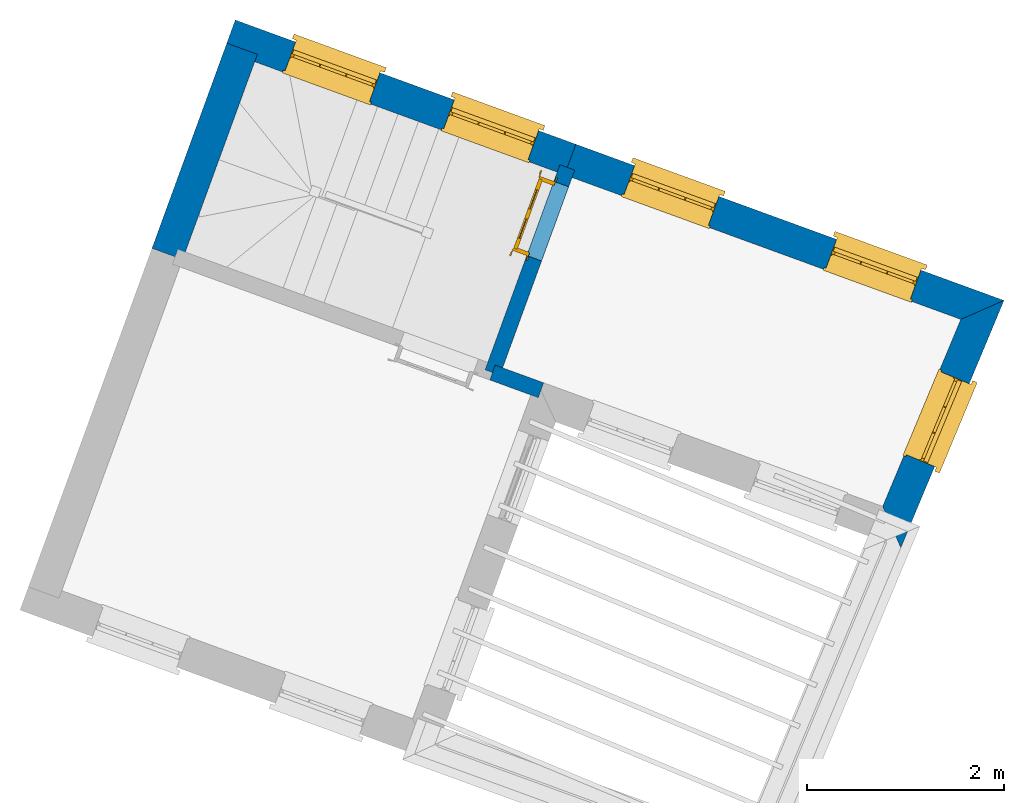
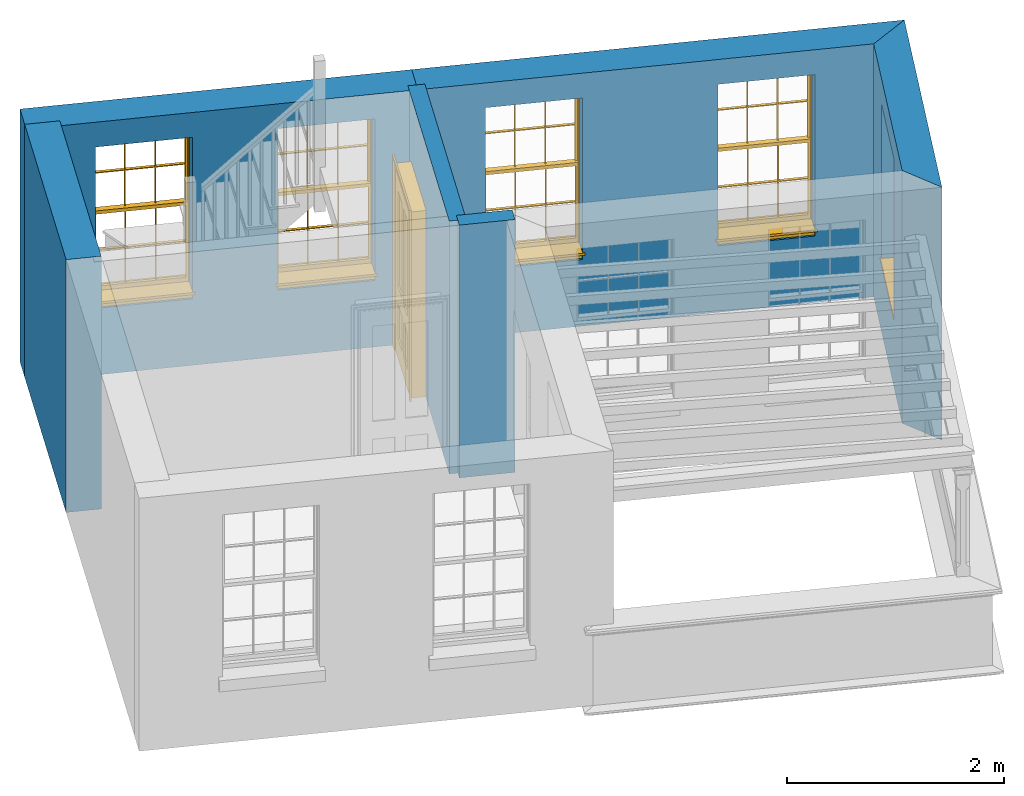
# One storey, part 4 of 7: 6 walls, 5 windows, 1 door, 6 openings.
"""IFC4 building model written with IfcOpenShell, lengths in metres."""

from ifc_helpers import new_model, si_unit, frame, origin, origin_with_axes, place, context, subcontext, project, spatial, polyline, outline, extrude, faceted_brep, source, transform, mapped, material, layer, layer_set, layer_usage, type_object, type_shapes, element, fill, save


model = new_model("IFC4")

# Units and contexts
model_context = context("Model", 3, world=origin_with_axes())
body_context = subcontext(model_context, "Body", "Model", "MODEL_VIEW")
ifc_project = project(units=[si_unit("PLANEANGLEUNIT", "RADIAN"), si_unit("MASSUNIT", "GRAM", prefix="KILO"), si_unit("FORCEUNIT", "NEWTON", prefix="KILO"), si_unit("LENGTHUNIT", "METRE"), si_unit("AREAUNIT", "SQUARE_METRE"), si_unit("VOLUMEUNIT", "CUBIC_METRE")], contexts=[model_context, model_context])

# Sites, building, storey
site_1_placement = place(None, origin_with_axes())
site_1 = spatial("IfcSite", under=ifc_project, at=site_1_placement, Name="Tamar")
site_2_placement = place(site_1_placement, origin_with_axes())
site_2 = spatial("IfcSite", under=site_1, at=site_2_placement, Name="Site plot-13", CompositionType="ELEMENT")
building_placement = place(None, origin_with_axes())
building = spatial("IfcBuilding", under=site_2, at=building_placement, Name="Building plot-13", CompositionType="ELEMENT")
storey_placement = place(None, frame((0.0, 0.0, 29.0), z_axis=(0.0, 0.0, 1.0), x_axis=(1.0, 0.0, 0.0)))
storey = spatial("IfcBuildingStorey", under=building, at=storey_placement, Name="plot-13 1", CompositionType="ELEMENT", Elevation=29.0)

# Wall, opening, window
ifc_material_1 = material(Name="Masonry")
ifc_layer_1 = layer(ifc_material_1, 0.33, ventilated=False)
ifc_layer_set_1 = layer_set([ifc_layer_1], Name="exterior_0.08_0.25")
ifc_layer_usage_1 = layer_usage(ifc_layer_set_1, "AXIS2", "POSITIVE", -0.25)
wall_type_1 = type_object("IfcWallType", Name="exterior_0.08_0.25", PredefinedType="SOLIDWALL", material=ifc_layer_set_1)
wall_1_placement = place(storey_placement, frame((249.746626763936, 299.462658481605, 0.0), z_axis=(0.0, 0.0, 1.0), x_axis=(0.385150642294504, 0.922853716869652, 0.0)))
wall_1 = element("IfcWall", 1, at=wall_1_placement, inside=storey, type_object=wall_type_1, material=ifc_layer_usage_1, Name="exterior", context=body_context, shape_type="SweptSolid", body=[
    extrude(outline(polyline([(0.0764369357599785, 0.0799999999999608), (-0.238865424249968, -0.250000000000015), (2.47628927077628, -0.250000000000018), (2.13090650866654, 0.0799999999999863), (0.0764369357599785, 0.0799999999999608)])), origin_with_axes(), (0.0, 0.0, 1.0), 2.85),
])
opening_1_placement = place(wall_1_placement, frame((0.652317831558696, 0.0, 0.75)))
opening_1 = element("IfcOpeningElement", 2, at=opening_1_placement, cuts=wall_1, Name="My Opening", ObjectType="Opening", context=body_context, shape_type="SweptSolid", body=[
    extrude(outline(polyline([(0.0, -0.270000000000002), (0.910000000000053, -0.269999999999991), (0.91000000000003, 1.09999999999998), (-2.28705943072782e-14, 1.09999999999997), (0.0, -0.270000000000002)])), origin_with_axes(), (0.0, 0.0, 1.0), 1.82),
])
window_type = type_object("IfcWindowType", Name="sash_big", PartitioningType="DOUBLE_PANEL_HORIZONTAL", PredefinedType="NOTDEFINED")
shared_shape_1 = source(origin(), body_context, "Body", "Brep", [
    faceted_brep([(0.033125, 0.145, 0.975209), (0.01, 0.145, 0.975209), (0.033125, 0.145, 1.376042), (0.876875, 0.145, 0.975209), (0.876875, 0.145, 1.376042), (0.9, 0.145, 0.975209), (0.876875, 0.145, 1.386042), (0.876875, 0.145, 1.786875), (0.9, 0.145, 1.81), (0.033125, 0.145, 1.786875), (0.033125, 0.145, 1.386042), (0.01, 0.145, 1.81), (0.876875, 0.115, 1.376042), (0.876875, 0.115, 0.975209), (0.9, 0.115, 0.937083), (0.033125, 0.115, 1.786875), (0.01, 0.115, 1.81), (0.033125, 0.115, 1.386042), (0.01, 0.115, 0.937083), (0.033125, 0.115, 0.975209), (0.033125, 0.115, 1.376042), (0.876875, 0.115, 1.786875), (0.876875, 0.115, 1.386042), (0.9, 0.115, 1.81), (0.033125, 0.145, 0.937083), (0.01, 0.145, 0.937083), (0.033125, 0.145, 0.53625), (0.876875, 0.145, 0.937083), (0.876875, 0.145, 0.53625), (0.9, 0.145, 0.937083), (0.876875, 0.145, 0.52625), (0.876875, 0.145, 0.125417), (0.9, 0.145, 0.077167), (0.033125, 0.145, 0.125417), (0.033125, 0.145, 0.52625), (0.01, 0.145, 0.077167), (-0.0425, 0.0, 0.01), (-0.0425, -0.05, 0.001667), (0.0, 0.0, 0.01), (0.9525, 0.0, 0.01), (0.91, 0.0, 0.01), (0.9525, -0.05, 0.001667), (-0.02, 0.33, 0.077167), (0.0, 0.33, 0.077167), (-0.02, 0.36, 0.077167), (0.0, 0.19, 0.077167), (0.01, 0.19, 0.077167), (0.91, 0.19, 0.077167), (0.91, 0.33, 0.077167), (0.9, 0.19, 0.077167), (0.93, 0.33, 0.077167), (0.93, 0.36, 0.077167), (0.01, 0.175, 0.975209), (0.9, 0.175, 0.975209), (0.876875, 0.175, 0.125417), (0.876875, 0.175, 0.52625), (0.9, 0.175, 0.077167), (0.876875, 0.175, 0.53625), (0.876875, 0.175, 0.937083), (0.033125, 0.175, 0.125417), (0.01, 0.175, 0.077167), (0.033125, 0.175, 0.52625), (0.033125, 0.175, 0.937083), (0.033125, 0.175, 0.53625), (-0.02, 0.33, 0.052167), (-0.02, 0.36, 0.052167), (0.93, 0.36, 0.052167), (0.93, 0.33, 0.052167), (0.91, 0.33, 0.052167), (0.0, 0.33, 0.052167), (0.91, 0.1, 0.026667), (0.0, 0.1, 0.026667), (-0.0425, -0.05, -0.123333), (0.9525, -0.05, -0.123333), (-0.0425, 0.0, -0.123333), (0.9525, 0.0, -0.123333), (0.01, 0.19, 1.81), (0.9, 0.19, 1.81), (0.0, 0.19, 1.82), (0.91, 0.19, 1.82), (0.01, 0.1, 0.077167), (0.9, 0.1, 0.077167), (0.592292, 0.145, 0.125417), (0.592292, 0.175, 0.125417), (0.317708, 0.175, 0.125417), (0.317708, 0.145, 0.125417), (0.592292, 0.145, 0.53625), (0.317708, 0.145, 0.53625), (0.317708, 0.145, 0.52625), (0.592292, 0.145, 0.52625), (0.592292, 0.175, 0.53625), (0.317708, 0.175, 0.53625), (0.592292, 0.115, 1.386042), (0.592292, 0.145, 1.386042), (0.317708, 0.145, 1.386042), (0.317708, 0.115, 1.386042), (0.317708, 0.115, 1.376042), (0.592292, 0.115, 1.376042), (0.317708, 0.145, 1.376042), (0.592292, 0.145, 1.376042), (0.602292, 0.115, 1.376042), (0.592292, 0.115, 0.975209), (0.602292, 0.115, 0.975209), (0.602292, 0.145, 0.975209), (0.592292, 0.145, 0.975209), (0.602292, 0.145, 1.376042), (0.602292, 0.175, 0.53625), (0.602292, 0.145, 0.53625), (0.317708, 0.175, 0.52625), (0.307708, 0.175, 0.125417), (0.307708, 0.175, 0.52625), (0.602292, 0.175, 0.52625), (0.602292, 0.175, 0.125417), (0.592292, 0.175, 0.52625), (0.307708, 0.175, 0.53625), (0.317708, 0.175, 0.937083), (0.307708, 0.175, 0.937083), (0.602292, 0.175, 0.937083), (0.592292, 0.175, 0.937083), (0.307708, 0.145, 0.52625), (0.307708, 0.145, 0.125417), (0.307708, 0.145, 0.53625), (0.307708, 0.145, 0.937083), (0.592292, 0.145, 0.937083), (0.317708, 0.145, 0.937083), (0.602292, 0.145, 0.937083), (0.602292, 0.145, 0.52625), (0.602292, 0.145, 0.125417), (0.307708, 0.115, 1.386042), (0.307708, 0.115, 1.376042), (0.307708, 0.115, 0.975209), (0.317708, 0.115, 0.975209), (0.317708, 0.115, 1.786875), (0.307708, 0.115, 1.786875), (0.602292, 0.115, 1.786875), (0.592292, 0.115, 1.786875), (0.602292, 0.115, 1.386042), (0.602292, 0.145, 1.386042), (0.307708, 0.145, 1.386042), (0.307708, 0.145, 1.786875), (0.317708, 0.145, 1.786875), (0.592292, 0.145, 1.786875), (0.602292, 0.145, 1.786875), (0.307708, 0.145, 1.376042), (0.317708, 0.145, 0.975209), (0.307708, 0.145, 0.975209), (0.91, 0.1, 1.82), (0.9, 0.1, 1.81), (0.01, 0.1, 1.81), (0.0, 0.1, 1.82), (0.91, 0.0, 0.0), (0.0, 0.0, 0.0), (0.91, 0.33, 0.0), (0.0, 0.33, 0.0)], [[[0, 1, 2]], [[3, 4, 5]], [[6, 7, 8]], [[9, 10, 11]], [[12, 13, 14]], [[15, 16, 17]], [[18, 19, 20]], [[21, 22, 23]], [[24, 25, 26]], [[27, 28, 29]], [[30, 31, 32]], [[33, 34, 35]], [[14, 27, 29]], [[25, 24, 18]], [[36, 37, 38]], [[39, 40, 41]], [[42, 43, 44]], [[45, 46, 43]], [[47, 48, 49]], [[50, 51, 48]], [[1, 0, 52]], [[5, 53, 3]], [[54, 55, 56]], [[57, 58, 53]], [[59, 60, 61]], [[62, 63, 52]], [[48, 43, 46, 49]], [[51, 44, 43, 48]], [[64, 42, 44, 65]], [[65, 44, 51, 66]], [[66, 51, 50, 67]], [[65, 66, 68, 69]], [[60, 56, 49, 46]], [[70, 71, 38, 40]], [[37, 41, 40, 38]], [[37, 72, 73, 41]], [[74, 75, 73, 72]], [[8, 11, 76, 77]], [[76, 78, 79, 77]], [[32, 35, 80, 81]], [[81, 80, 71, 70]], [[82, 83, 84, 85]], [[86, 87, 88, 89]], [[86, 90, 91, 87]], [[92, 93, 94, 95]], [[92, 95, 96, 97]], [[96, 98, 99, 97]], [[100, 97, 101, 102]], [[103, 104, 99, 105]], [[97, 99, 104, 101]], [[102, 103, 105, 100]], [[28, 57, 106, 107]], [[108, 84, 109, 110]], [[111, 112, 83, 113]], [[114, 110, 61, 63]], [[90, 113, 108, 91]], [[115, 91, 114, 116]], [[117, 106, 90, 118]], [[111, 106, 57, 55]], [[119, 110, 109, 120]], [[34, 61, 110, 119]], [[89, 113, 83, 82]], [[88, 108, 113, 89]], [[85, 84, 108, 88]], [[121, 114, 63, 26]], [[122, 116, 114, 121]], [[123, 118, 90, 86]], [[87, 91, 115, 124]], [[107, 106, 117, 125]], [[126, 111, 55, 30]], [[127, 112, 111, 126]], [[126, 30, 28, 107]], [[88, 119, 120, 85]], [[126, 89, 82, 127]], [[125, 123, 86, 107]], [[121, 26, 34, 119]], [[124, 122, 121, 87]], [[128, 17, 20, 129]], [[96, 129, 130, 131]], [[132, 133, 128, 95]], [[134, 135, 92, 136]], [[100, 12, 22, 136]], [[137, 6, 4, 105]], [[94, 138, 139, 140]], [[137, 93, 141, 142]], [[99, 98, 94, 93]], [[143, 2, 10, 138]], [[144, 145, 143, 98]], [[129, 143, 145, 130]], [[20, 2, 143, 129]], [[131, 144, 98, 96]], [[128, 138, 10, 17]], [[133, 139, 138, 128]], [[135, 141, 93, 92]], [[95, 94, 140, 132]], [[22, 6, 137, 136]], [[136, 137, 142, 134]], [[100, 105, 4, 12]], [[107, 86, 89, 126]], [[106, 111, 113, 90]], [[91, 108, 110, 114]], [[87, 121, 119, 88]], [[97, 100, 136, 92]], [[129, 96, 95, 128]], [[98, 143, 138, 94]], [[105, 99, 93, 137]], [[131, 101, 104, 144]], [[124, 115, 118, 123]], [[132, 140, 141, 135]], [[120, 109, 59, 33]], [[15, 9, 139, 133]], [[134, 142, 7, 21]], [[31, 54, 112, 127]], [[36, 74, 72, 37]], [[39, 41, 73, 75]], [[18, 14, 101, 131]], [[23, 16, 132, 135]], [[83, 56, 60, 84]], [[52, 53, 118, 115]], [[53, 52, 144, 104]], [[11, 8, 141, 140]], [[14, 18, 124, 123]], [[2, 1, 11, 10]], [[8, 5, 4, 6]], [[57, 53, 56, 55]], [[60, 52, 63, 61]], [[26, 25, 35, 34]], [[32, 29, 28, 30]], [[14, 23, 22, 12]], [[18, 20, 17, 16]], [[19, 0, 2, 20]], [[17, 10, 9, 15]], [[12, 4, 3, 13]], [[21, 7, 6, 22]], [[27, 58, 57, 28]], [[30, 55, 54, 31]], [[33, 59, 61, 34]], [[26, 63, 62, 24]], [[5, 8, 77, 53]], [[76, 11, 1, 52]], [[46, 45, 78, 76]], [[49, 77, 79, 47]], [[70, 146, 147, 81]], [[71, 80, 148, 149]], [[19, 130, 145, 0]], [[102, 13, 3, 103]], [[116, 122, 24, 62]], [[29, 32, 81, 14]], [[80, 35, 25, 18]], [[60, 46, 76, 52]], [[77, 49, 56, 53]], [[23, 14, 81, 147]], [[16, 148, 80, 18]], [[35, 85, 120]], [[120, 33, 35]], [[127, 82, 32]], [[32, 31, 127]], [[32, 82, 85, 35]], [[102, 101, 14]], [[14, 13, 102]], [[18, 131, 130]], [[130, 19, 18]], [[134, 21, 23]], [[23, 135, 134]], [[16, 15, 133]], [[133, 132, 16]], [[11, 140, 139]], [[139, 9, 11]], [[142, 141, 8]], [[8, 7, 142]], [[23, 147, 148, 16]], [[146, 149, 148, 147]], [[52, 115, 116]], [[116, 62, 52]], [[118, 53, 117]], [[58, 117, 53]], [[27, 125, 117, 58]], [[56, 83, 112]], [[112, 54, 56]], [[109, 84, 60]], [[60, 59, 109]], [[125, 27, 14]], [[14, 123, 125]], [[122, 124, 18]], [[18, 24, 122]], [[145, 144, 52]], [[52, 0, 145]], [[103, 3, 53]], [[53, 104, 103]], [[79, 78, 149, 146]], [[78, 45, 71, 149]], [[146, 70, 47, 79]], [[150, 75, 74, 151]], [[68, 66, 67]], [[48, 68, 67, 50]], [[69, 64, 65]], [[42, 64, 69, 43]], [[69, 68, 152, 153]], [[70, 68, 48, 47]], [[150, 152, 68, 70]], [[43, 69, 71, 45]], [[69, 153, 151, 71]], [[152, 150, 151, 153]], [[38, 151, 74, 36]], [[71, 151, 38]], [[39, 75, 150, 40]], [[40, 150, 70]]]),
])
type_shapes(window_type, [shared_shape_1])
window_1_placement = place(storey_placement, frame((250.247037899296, 299.96066174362, 0.75), z_axis=(0.0, 0.0, 1.0), x_axis=(0.350487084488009, 0.839796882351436, 0.0)))
window_1 = element("IfcWindow", 3, at=window_1_placement, inside=storey, type_object=window_type, Name="toilet outside window", OverallHeight=1.82, OverallWidth=0.91, context=body_context, shape_type="MappedRepresentation", body=[
    mapped(shared_shape_1, transform((0.0, 0.0, 0.0), scale=1.0)),
])
fill(opening_1, window_1)

# Wall, openings, windows
wall_2_placement = place(storey_placement, frame((250.599595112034, 301.506443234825, 0.0), z_axis=(0.0, 0.0, 1.0), x_axis=(-0.939432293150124, 0.342734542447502, 0.0)))
wall_2 = element("IfcWall", 4, at=wall_2_placement, inside=storey, type_object=wall_type_1, material=ifc_layer_usage_1, Name="exterior", context=body_context, shape_type="SweptSolid", body=[
    extrude(outline(polyline([(0.0837291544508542, 0.0800000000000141), (-0.261653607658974, -0.249999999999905), (4.35646628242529, -0.249999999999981), (4.35646628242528, 0.0799999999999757), (0.0837291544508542, 0.0800000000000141)])), origin_with_axes(), (0.0, 0.0, 1.0), 2.85),
])
opening_2_placement = place(wall_2_placement, frame((0.634116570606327, 0.0, 0.75)))
opening_2 = element("IfcOpeningElement", 5, at=opening_2_placement, cuts=wall_2, Name="My Opening", ObjectType="Opening", context=body_context, shape_type="SweptSolid", body=[
    extrude(outline(polyline([(0.0, -0.269999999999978), (0.909999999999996, -0.27), (0.909999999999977, 1.09999999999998), (-1.82076576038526e-14, 1.1), (0.0, -0.269999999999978)])), origin_with_axes(), (0.0, 0.0, 1.0), 1.82),
])
opening_3_placement = place(wall_2_placement, frame((2.812349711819, 0.0, 0.75)))
opening_3 = element("IfcOpeningElement", 6, at=opening_3_placement, cuts=wall_2, Name="My Opening", ObjectType="Opening", context=body_context, shape_type="SweptSolid", body=[
    extrude(outline(polyline([(0.0, -0.27), (0.909999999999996, -0.270000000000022), (0.909999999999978, 1.09999999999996), (-1.77635683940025e-14, 1.09999999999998), (0.0, -0.27)])), origin_with_axes(), (0.0, 0.0, 1.0), 1.82),
])
window_2_placement = place(storey_placement, frame((250.096423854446, 301.977423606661, 0.75), z_axis=(0.0, 0.0, 1.0), x_axis=(-0.854883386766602, 0.311888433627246, 0.0)))
window_2 = element("IfcWindow", 7, at=window_2_placement, inside=storey, type_object=window_type, Name="toilet outside window", OverallHeight=1.82, OverallWidth=0.91, context=body_context, shape_type="MappedRepresentation", body=[
    mapped(shared_shape_1, transform((0.0, 0.0, 0.0), scale=1.0)),
])
fill(opening_2, window_2)
window_3_placement = place(storey_placement, frame((248.050121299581, 302.723979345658, 0.75), z_axis=(0.0, 0.0, 1.0), x_axis=(-0.854883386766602, 0.311888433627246, 0.0)))
window_3 = element("IfcWindow", 8, at=window_3_placement, inside=storey, type_object=window_type, Name="toilet outside window", OverallHeight=1.82, OverallWidth=0.91, context=body_context, shape_type="MappedRepresentation", body=[
    mapped(shared_shape_1, transform((0.0, 0.0, 0.0), scale=1.0)),
])
fill(opening_3, window_3)

wall_3_placement = place(storey_placement, frame((246.506990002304, 302.99955471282, 0.0), z_axis=(0.0, 0.0, 1.0), x_axis=(-0.939432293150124, 0.342734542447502, 0.0)))
wall_3 = element("IfcWall", 9, at=wall_3_placement, inside=storey, type_object=wall_type_1, material=ifc_layer_usage_1, Name="exterior", context=body_context, shape_type="SweptSolid", body=[
    extrude(outline(polyline([(-6.1057689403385e-15, 0.0799999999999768), (-3.03780523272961e-15, -0.249999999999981), (3.67192076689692, -0.249999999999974), (3.67192076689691, 0.0799999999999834), (-6.1057689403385e-15, 0.0799999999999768)])), origin_with_axes(), (0.0, 0.0, 1.0), 2.85),
])
opening_4_placement = place(wall_3_placement, frame((0.400480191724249, 0.0, 0.75)))
opening_4 = element("IfcOpeningElement", 10, at=opening_4_placement, cuts=wall_3, Name="My Opening", ObjectType="Opening", context=body_context, shape_type="SweptSolid", body=[
    extrude(outline(polyline([(0.0, -0.270000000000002), (0.909999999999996, -0.270000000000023), (0.910000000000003, 1.09999999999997), (7.82707232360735e-15, 1.09999999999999), (0.0, -0.270000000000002)])), origin_with_axes(), (0.0, 0.0, 1.0), 1.82),
])
opening_5_placement = place(wall_3_placement, frame((2.11144057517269, 0.0, 0.75)))
opening_5 = element("IfcOpeningElement", 11, at=opening_5_placement, cuts=wall_3, Name="My Opening", ObjectType="Opening", context=body_context, shape_type="SweptSolid", body=[
    extrude(outline(polyline([(0.0, -0.269999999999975), (0.909999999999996, -0.269999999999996), (0.910000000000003, 1.1), (7.54951656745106e-15, 1.10000000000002), (0.0, -0.269999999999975)])), origin_with_axes(), (0.0, 0.0, 1.0), 1.82),
])
window_4_placement = place(storey_placement, frame((246.223304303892, 303.39045982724, 0.75), z_axis=(0.0, 0.0, 1.0), x_axis=(-0.854883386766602, 0.311888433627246, 0.0)))
window_4 = element("IfcWindow", 12, at=window_4_placement, inside=storey, type_object=window_type, Name="circulation outside window", OverallHeight=1.82, OverallWidth=0.91, context=body_context, shape_type="MappedRepresentation", body=[
    mapped(shared_shape_1, transform((0.0, 0.0, 0.0), scale=1.0)),
])
fill(opening_4, window_4)
window_5_placement = place(storey_placement, frame((244.61597286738, 303.976865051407, 0.75), z_axis=(0.0, 0.0, 1.0), x_axis=(-0.854883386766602, 0.311888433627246, 0.0)))
window_5 = element("IfcWindow", 13, at=window_5_placement, inside=storey, type_object=window_type, Name="circulation outside window", OverallHeight=1.82, OverallWidth=0.91, context=body_context, shape_type="MappedRepresentation", body=[
    mapped(shared_shape_1, transform((0.0, 0.0, 0.0), scale=1.0)),
])
fill(opening_5, window_5)

# Walls
ifc_material_2 = material(Name="Masonry")
ifc_layer_2 = layer(ifc_material_2, 0.33, ventilated=False)
ifc_layer_set_2 = layer_set([ifc_layer_2], Name="party_0.08_0.25")
ifc_layer_usage_2 = layer_usage(ifc_layer_set_2, "AXIS2", "POSITIVE", -0.25)
wall_type_2 = type_object("IfcWallType", Name="party_0.08_0.25", PredefinedType="SOLIDWALL", material=ifc_layer_set_2)
wall_4_placement = place(storey_placement, frame((243.29232712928, 304.172365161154, 0.0), z_axis=(0.0, 0.0, 1.0), x_axis=(-0.342734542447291, -0.939432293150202, 0.0)))
element("IfcWall", 14, at=wall_4_placement, inside=storey, type_object=wall_type_2, material=ifc_layer_usage_2, Name="party", context=body_context, shape_type="SweptSolid", body=[
    extrude(outline(polyline([(-2.44573658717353e-14, 0.0799999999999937), (3.67904406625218e-15, -0.249999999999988), (2.21233911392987, -0.249999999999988), (2.21233911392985, 0.079999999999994), (-2.44573658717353e-14, 0.0799999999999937)])), origin_with_axes(), (0.0, 0.0, 1.0), 2.85),
])
ifc_material_3 = material(Name="Masonry")
ifc_layer_3 = layer(ifc_material_3, 0.16, ventilated=False)
ifc_layer_set_3 = layer_set([ifc_layer_3], Name="interior_0.08_0.08")
ifc_layer_usage_3 = layer_usage(ifc_layer_set_3, "AXIS2", "POSITIVE", -0.08)
wall_type_3 = type_object("IfcWallType", Name="interior_0.08_0.08", PredefinedType="SOLIDWALL", material=ifc_layer_set_3)
wall_5_placement = place(storey_placement, frame((245.748744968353, 300.921211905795, 0.0), z_axis=(0.0, 0.0, 1.0), x_axis=(0.939432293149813, -0.342734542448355, 0.0)))
element("IfcWall", 15, at=wall_5_placement, inside=storey, type_object=wall_type_3, material=ifc_layer_usage_3, Name="interior", context=body_context, shape_type="SweptSolid", body=[
    extrude(outline(polyline([(1.4437476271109e-15, 0.080000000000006), (-1.43578123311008e-15, -0.080000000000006), (0.522856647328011, -0.080000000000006), (0.522856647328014, 0.080000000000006), (1.4437476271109e-15, 0.080000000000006)])), origin_with_axes(), (0.0, 0.0, 1.0), 2.85),
])

# Wall, opening, door
wall_6_placement = place(storey_placement, frame((245.748744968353, 300.921211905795, 0.0), z_axis=(0.0, 0.0, 1.0), x_axis=(0.342734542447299, 0.939432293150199, 0.0)))
wall_6 = element("IfcWall", 16, at=wall_6_placement, inside=storey, type_object=wall_type_3, material=ifc_layer_usage_3, Name="interior", context=body_context, shape_type="SweptSolid", body=[
    extrude(outline(polyline([(-2.5183841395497e-14, 0.0799999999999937), (2.51936385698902e-14, -0.0799999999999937), (2.21233911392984, -0.0799999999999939), (2.21233911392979, 0.0799999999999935), (-2.5183841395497e-14, 0.0799999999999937)])), origin_with_axes(), (0.0, 0.0, 1.0), 2.85),
])
opening_6_placement = place(wall_6_placement, frame((1.23233911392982, 0.0, 0.0199999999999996)))
opening_6 = element("IfcOpeningElement", 17, at=opening_6_placement, cuts=wall_6, Name="My Opening", ObjectType="Opening", context=body_context, shape_type="SweptSolid", body=[
    extrude(outline(polyline([(0.0, -0.0999999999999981), (0.799999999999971, -0.100000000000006), (0.799999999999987, 1.09999999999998), (1.55431223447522e-14, 1.09999999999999), (0.0, -0.0999999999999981)])), origin_with_axes(), (0.0, 0.0, 1.0), 2.1),
])
door_type = type_object("IfcDoorType", Name="door_inside", OperationType="SINGLE_SWING_LEFT", PredefinedType="NOTDEFINED")
shared_shape_2 = source(origin(), body_context, "Body", "Brep", [
    faceted_brep([(0.773, 0.33, 1.895), (0.66, 0.33, 1.895), (0.66, 0.33, 2.073), (0.773, 0.33, 2.073), (0.773, 0.33, 0.82), (0.66, 0.33, 0.82), (0.45, 0.33, 1.895), (0.45, 0.33, 2.073), (0.773, 0.33, 0.62), (0.66, 0.33, 0.62), (0.66, 0.315, 0.82), (0.66, 0.315, 1.895), (0.45, 0.315, 1.895), (0.35, 0.33, 1.895), (0.35, 0.33, 2.073), (0.773, 0.33, 0.225), (0.66, 0.33, 0.225), (0.45, 0.33, 0.62), (0.45, 0.33, 0.82), (0.45, 0.315, 0.82), (0.35, 0.33, 0.82), (0.14, 0.33, 2.073), (0.14, 0.33, 1.895), (0.773, 0.33, 0.0), (0.66, 0.33, 0.0), (0.66, 0.315, 0.225), (0.66, 0.315, 0.62), (0.45, 0.315, 0.62), (0.35, 0.33, 0.62), (0.35, 0.315, 0.82), (0.35, 0.315, 1.895), (0.14, 0.315, 1.895), (0.027, 0.33, 2.073), (0.027, 0.33, 1.895), (0.773, 0.292, 0.0), (0.66, 0.292, 0.0), (0.45, 0.33, 0.0), (0.45, 0.33, 0.225), (0.45, 0.315, 0.225), (0.35, 0.33, 0.225), (0.14, 0.33, 0.82), (0.14, 0.33, 0.62), (0.14, 0.315, 0.82), (0.027, 0.33, 0.82), (0.773, 0.292, 0.225), (0.66, 0.292, 0.225), (0.45, 0.292, 0.0), (0.35, 0.33, 0.0), (0.35, 0.315, 0.225), (0.35, 0.315, 0.62), (0.14, 0.315, 0.62), (0.027, 0.33, 0.62), (0.773, 0.292, 0.62), (0.66, 0.292, 0.62), (0.45, 0.292, 0.225), (0.35, 0.292, 0.0), (0.14, 0.33, 0.225), (0.14, 0.33, 0.0), (0.14, 0.315, 0.225), (0.027, 0.33, 0.225), (0.773, 0.292, 0.82), (0.66, 0.292, 0.82), (0.66, 0.307, 0.62), (0.66, 0.307, 0.225), (0.45, 0.307, 0.225), (0.35, 0.292, 0.225), (0.14, 0.292, 0.0), (0.027, 0.33, 0.0), (0.773, 0.292, 1.895), (0.66, 0.292, 1.895), (0.45, 0.292, 0.62), (0.45, 0.292, 0.82), (0.45, 0.307, 0.62), (0.35, 0.292, 0.62), (0.14, 0.292, 0.225), (0.027, 0.292, 0.0), (0.773, 0.292, 2.073), (0.66, 0.292, 2.073), (0.66, 0.307, 1.895), (0.66, 0.307, 0.82), (0.45, 0.307, 0.82), (0.35, 0.292, 0.82), (0.35, 0.307, 0.62), (0.35, 0.307, 0.225), (0.14, 0.307, 0.225), (0.027, 0.292, 0.225), (0.45, 0.292, 1.895), (0.45, 0.292, 2.073), (0.45, 0.307, 1.895), (0.35, 0.292, 1.895), (0.14, 0.292, 0.82), (0.14, 0.292, 0.62), (0.14, 0.307, 0.62), (0.027, 0.292, 0.62), (0.35, 0.292, 2.073), (0.35, 0.307, 1.895), (0.35, 0.307, 0.82), (0.14, 0.307, 0.82), (0.027, 0.292, 0.82), (0.14, 0.292, 2.073), (0.14, 0.292, 1.895), (0.14, 0.307, 1.895), (0.027, 0.292, 1.895), (0.027, 0.292, 2.073), (0.02, 0.335, 0.0), (0.005, 0.34, 0.0), (0.005, 0.34, 2.095), (0.02, 0.335, 2.08), (0.02, 0.33, 0.0), (0.0, 0.335, 0.0), (0.0, 0.335, 2.1), (0.795, 0.34, 2.095), (0.78, 0.335, 2.08), (0.02, 0.33, 2.08), (0.0, 0.33, 0.0), (-0.032, 0.345, 0.0), (-0.032, 0.345, 2.132), (0.8, 0.335, 2.1), (0.795, 0.34, 0.0), (0.78, 0.335, 0.0), (0.78, 0.33, 2.08), (0.04, 0.29, 0.0), (0.025, 0.29, 0.0), (0.025, 0.29, 2.075), (0.04, 0.29, 2.06), (-0.04, 0.34, 0.0), (-0.04, 0.34, 2.14), (0.832, 0.345, 2.132), (0.8, 0.335, 0.0), (0.78, 0.33, 0.0), (0.8, 0.33, 0.0), (0.86, 0.33, 0.0), (0.86, 0.33, 2.16), (0.8, 0.33, 2.1), (-0.06, 0.33, 2.16), (0.0, 0.33, 2.1), (-0.06, 0.33, 0.0), (-0.04, 0.345, 0.0), (-0.04, 0.345, 2.14), (0.84, 0.34, 2.14), (0.832, 0.345, 0.0), (0.84, 0.34, 0.0), (0.86, 0.345, 0.0), (0.86, 0.345, 2.16), (-0.06, 0.345, 2.16), (-0.06, 0.345, 0.0), (0.84, 0.345, 0.0), (0.84, 0.345, 2.14), (-0.025, 0.155, 0.0), (-0.025, 0.16, 0.0), (-0.025, 0.16, 2.125), (-0.025, 0.155, 2.125), (-0.017, 0.155, 0.0), (-0.017, 0.155, 2.117), (0.825, 0.16, 2.125), (0.825, 0.155, 2.125), (0.825, 0.155, 0.0), (0.845, 0.155, 0.0), (-0.045, 0.155, 2.145), (-0.045, 0.155, 0.0), (0.845, 0.155, 2.145), (0.015, 0.165, 0.0), (0.015, 0.165, 2.085), (0.817, 0.155, 2.117), (0.825, 0.16, 0.0), (0.845, 0.17, 0.0), (0.845, 0.17, 2.145), (-0.045, 0.17, 2.145), (-0.045, 0.17, 0.0), (0.02, 0.16, 0.0), (0.02, 0.16, 2.08), (0.785, 0.165, 2.085), (0.817, 0.155, 0.0), (0.8, 0.17, 0.0), (0.8, 0.17, 2.1), (0.0, 0.17, 2.1), (0.0, 0.17, 0.0), (0.035, 0.165, 0.0), (0.035, 0.165, 2.065), (0.78, 0.16, 2.08), (0.785, 0.165, 0.0), (0.775, 0.29, 2.075), (0.76, 0.29, 2.06), (0.035, 0.17, 2.065), (0.035, 0.17, 0.0), (0.765, 0.165, 2.065), (0.78, 0.16, 0.0), (0.765, 0.17, 0.0), (0.765, 0.17, 2.065), (0.765, 0.165, 0.0), (0.04, 0.17, 2.06), (0.04, 0.17, 0.0), (0.76, 0.17, 2.06), (0.76, 0.17, 0.0), (0.76, 0.29, 0.0), (0.775, 0.29, 0.0), (0.025, 0.33, 0.0), (0.025, 0.33, 2.075), (0.775, 0.33, 0.0), (0.775, 0.33, 2.075)], [[[0, 1, 2, 3]], [[1, 0, 4, 5]], [[1, 6, 7, 2]], [[8, 9, 5, 4]], [[1, 5, 10, 11]], [[6, 1, 11, 12]], [[6, 13, 14, 7]], [[15, 16, 9, 8]], [[9, 17, 18, 5]], [[5, 18, 19, 10]], [[10, 19, 12, 11]], [[18, 6, 12, 19]], [[18, 20, 13, 6]], [[21, 14, 13, 22]], [[23, 24, 16, 15]], [[9, 16, 25, 26]], [[17, 9, 26, 27]], [[17, 28, 20, 18]], [[13, 20, 29, 30]], [[22, 13, 30, 31]], [[32, 21, 22, 33]], [[34, 35, 24, 23]], [[24, 36, 37, 16]], [[16, 37, 38, 25]], [[25, 38, 27, 26]], [[37, 17, 27, 38]], [[37, 39, 28, 17]], [[40, 20, 28, 41]], [[20, 40, 42, 29]], [[31, 30, 29, 42]], [[40, 22, 31, 42]], [[33, 22, 40, 43]], [[35, 34, 44, 45]], [[35, 46, 36, 24]], [[36, 47, 39, 37]], [[28, 39, 48, 49]], [[41, 28, 49, 50]], [[43, 40, 41, 51]], [[45, 44, 52, 53]], [[46, 35, 45, 54]], [[46, 55, 47, 36]], [[56, 39, 47, 57]], [[39, 56, 58, 48]], [[50, 49, 48, 58]], [[56, 41, 50, 58]], [[51, 41, 56, 59]], [[53, 52, 60, 61]], [[45, 53, 62, 63]], [[54, 45, 63, 64]], [[55, 46, 54, 65]], [[55, 66, 57, 47]], [[59, 56, 57, 67]], [[61, 60, 68, 69]], [[70, 53, 61, 71]], [[53, 70, 72, 62]], [[72, 64, 63, 62]], [[70, 54, 64, 72]], [[65, 54, 70, 73]], [[65, 74, 66, 55]], [[67, 57, 66, 75]], [[69, 68, 76, 77]], [[61, 69, 78, 79]], [[71, 61, 79, 80]], [[73, 70, 71, 81]], [[65, 73, 82, 83]], [[74, 65, 83, 84]], [[74, 85, 75, 66]], [[86, 69, 77, 87]], [[69, 86, 88, 78]], [[88, 80, 79, 78]], [[86, 71, 80, 88]], [[81, 71, 86, 89]], [[73, 81, 90, 91]], [[73, 91, 92, 82]], [[83, 82, 92, 84]], [[91, 74, 84, 92]], [[91, 93, 85, 74]], [[89, 86, 87, 94]], [[81, 89, 95, 96]], [[90, 81, 96, 97]], [[90, 98, 93, 91]], [[94, 99, 100, 89]], [[89, 100, 101, 95]], [[101, 97, 96, 95]], [[100, 90, 97, 101]], [[100, 102, 98, 90]], [[99, 103, 102, 100]], [[32, 103, 99, 21]], [[102, 103, 32, 33]], [[98, 102, 33, 43]], [[21, 99, 94, 14]], [[94, 87, 7, 14]], [[7, 87, 77, 2]], [[76, 3, 2, 77]], [[43, 51, 93, 98]], [[51, 59, 85, 93]], [[67, 75, 85, 59]], [[34, 23, 15, 44]], [[44, 15, 8, 52]], [[52, 8, 4, 60]], [[0, 68, 60, 4]], [[0, 3, 76, 68]], [[104, 105, 106, 107]], [[104, 108, 109, 105]], [[105, 109, 110, 106]], [[107, 106, 111, 112]], [[107, 113, 108, 104]], [[114, 109, 108]], [[109, 115, 116, 110]], [[106, 110, 117, 111]], [[112, 111, 118, 119]], [[113, 107, 112, 120]], [[121, 122, 123, 124]], [[115, 109, 114, 125]], [[115, 125, 126, 116]], [[110, 116, 127, 117]], [[111, 117, 128, 118]], [[118, 128, 129, 119]], [[120, 112, 119, 129]], [[130, 129, 128]], [[130, 131, 132, 133]], [[133, 132, 134, 135]], [[135, 134, 136, 114]], [[136, 125, 114]], [[125, 137, 138, 126]], [[116, 126, 139, 127]], [[117, 127, 140, 128]], [[141, 130, 128, 140]], [[131, 130, 141]], [[131, 142, 143, 132]], [[132, 143, 144, 134]], [[134, 144, 145, 136]], [[137, 125, 136, 145]], [[143, 142, 146]], [[143, 146, 147]], [[137, 145, 144]], [[143, 147, 138]], [[138, 137, 144]], [[143, 138, 144]], [[126, 138, 147, 139]], [[127, 139, 141, 140]], [[142, 131, 141, 146]], [[139, 147, 146, 141]], [[148, 149, 150, 151]], [[149, 152, 153, 150]], [[151, 150, 154, 155]], [[155, 156, 157]], [[158, 159, 148]], [[158, 148, 151]], [[155, 157, 160]], [[158, 151, 155]], [[155, 160, 158]], [[152, 161, 162, 153]], [[150, 153, 163, 154]], [[155, 154, 164, 156]], [[156, 164, 165, 157]], [[157, 165, 166, 160]], [[160, 166, 167, 158]], [[158, 167, 168, 159]], [[161, 169, 170, 162]], [[153, 162, 171, 163]], [[154, 163, 172, 164]], [[165, 164, 173]], [[165, 173, 174, 166]], [[166, 174, 175, 167]], [[167, 175, 176, 168]], [[169, 177, 178, 170]], [[162, 170, 179, 171]], [[163, 171, 180, 172]], [[172, 180, 173, 164]], [[124, 123, 181, 182]], [[183, 178, 177, 184]], [[170, 178, 185, 179]], [[171, 179, 186, 180]], [[187, 173, 180]], [[185, 188, 187, 189]], [[188, 185, 178, 183]], [[179, 185, 189, 186]], [[189, 187, 180, 186]], [[190, 183, 184, 191]], [[192, 188, 183, 190]], [[191, 184, 122, 121]], [[124, 190, 191, 121]], [[193, 187, 188, 192]], [[182, 192, 190, 124]], [[184, 176, 122]], [[194, 195, 187, 193]], [[192, 182, 194, 193]], [[161, 176, 184]], [[114, 108, 122, 176]], [[173, 187, 195]], [[152, 149, 176, 161]], [[169, 161, 184, 177]], [[196, 122, 108]], [[176, 175, 135, 114]], [[173, 195, 129, 130]], [[176, 149, 168]], [[123, 122, 196, 197]], [[196, 108, 113, 197]], [[175, 174, 133, 135]], [[198, 129, 195]], [[133, 174, 173, 130]], [[159, 168, 149, 148]], [[181, 123, 197, 199]], [[197, 113, 120, 199]], [[199, 120, 129, 198]], [[195, 181, 199, 198]], [[195, 194, 182, 181]]]),
])
type_shapes(door_type, [shared_shape_2])
door_placement = place(storey_placement, frame((246.265053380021, 302.044637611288, 0.0199999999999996), z_axis=(0.0, 0.0, 1.0), x_axis=(0.274187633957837, 0.75154583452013, 0.0)))
door = element("IfcDoor", 18, at=door_placement, inside=storey, type_object=door_type, Name="toilet inside door", OverallHeight=2.1, OverallWidth=0.8, context=body_context, shape_type="MappedRepresentation", body=[
    mapped(shared_shape_2, transform((0.0, 0.0, 0.0), scale=1.0)),
])
fill(opening_6, door)

save(model, "model.ifc")
